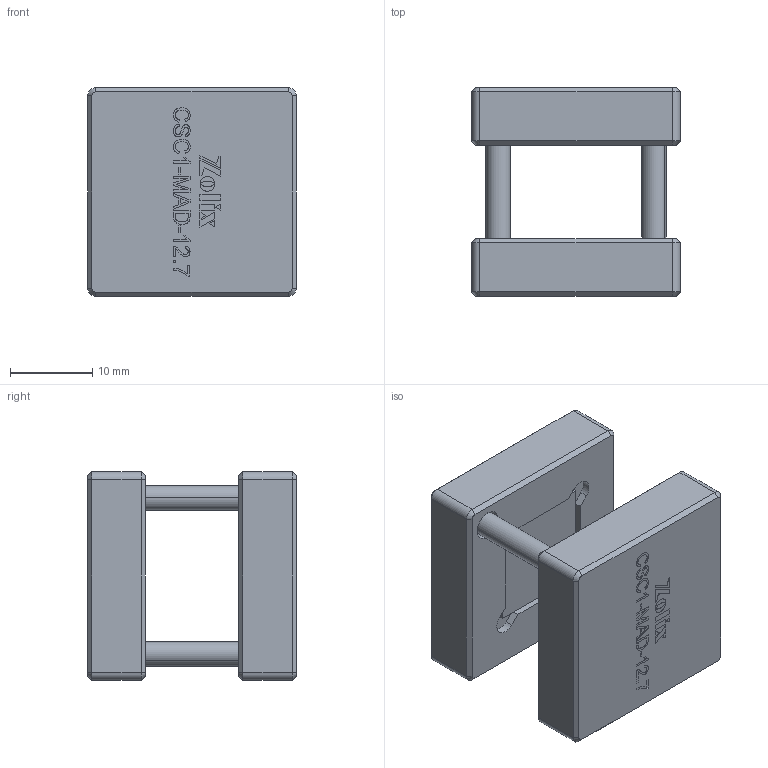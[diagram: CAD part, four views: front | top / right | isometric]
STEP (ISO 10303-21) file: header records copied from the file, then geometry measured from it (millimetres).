
FILE_DESCRIPTION (( 'STEP AP203' ), '1' );
FILE_NAME ('CSC1-MAD-12.7.STEP', '2024-03-28T03:20:03', ( '' ), ( '' ), 'SwSTEP 2.0', 'SolidWorks 2021', '' );
FILE_SCHEMA (( 'CONFIG_CONTROL_DESIGN' ));
Length unit declared in the file: millimetre
Products named in the file (1): CSC1-MAD-12.7
Bounding box: 25.4 x 25.4 x 25.4 mm (x, y, z)
Surface area: 4671.1 mm2 (no closed solid volume)
Topology: 0 solids, 10 shells, 331 faces, 1600 edges, 1236 vertices
Faces by surface type: plane 236, bspline 47, cone 24, cylinder 24
Entity records: 20468 total; most frequent: CARTESIAN_POINT 8563, ORIENTED_EDGE 2272, DIRECTION 2018, EDGE_CURVE 1600, VECTOR 1288, LINE 1288, VERTEX_POINT 1236, EDGE_LOOP 387
